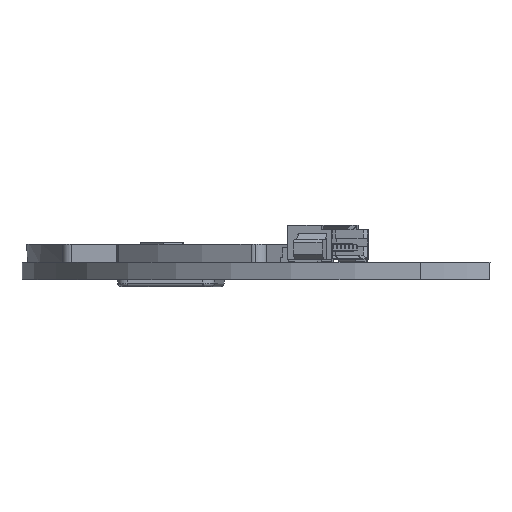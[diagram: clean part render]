
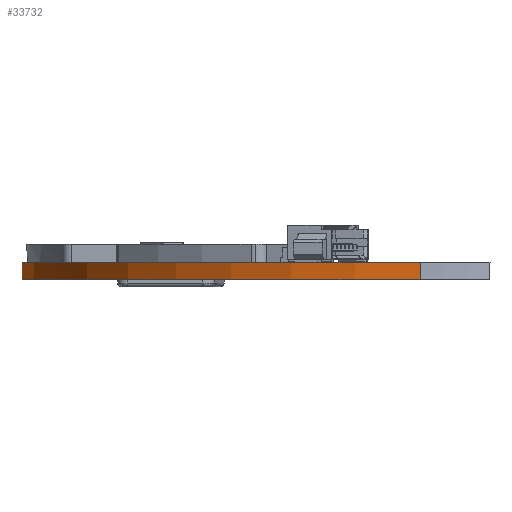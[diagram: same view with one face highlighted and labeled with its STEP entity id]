
A CAD part, left-side view. The second image highlights one B-rep face of the part: STEP entity #33732.
In plain terms, the highlighted cylindrical face has radius 37 mm (diameter 74 mm), a partial arc.
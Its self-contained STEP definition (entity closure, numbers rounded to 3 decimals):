
#306 = ORIENTED_EDGE ( 'NONE', *, *, #2765, .F. ) ;
#770 = CARTESIAN_POINT ( 'NONE',  ( 0., 0., -1.599 ) ) ;
#788 = FACE_OUTER_BOUND ( 'NONE', #26590, .T. ) ;
#2760 = CARTESIAN_POINT ( 'NONE',  ( -37., 0., 0. ) ) ;
#2765 = EDGE_CURVE ( 'NONE', #3721, #29935, #37634, .T. ) ;
#3721 = VERTEX_POINT ( 'NONE', #2760 ) ;
#6373 = CARTESIAN_POINT ( 'NONE',  ( -37., 0., -1.599 ) ) ;
#8593 = CARTESIAN_POINT ( 'NONE',  ( 2.724, 36.9, 0. ) ) ;
#8835 = DIRECTION ( 'NONE',  ( 0., 0., -1. ) ) ;
#9436 = ORIENTED_EDGE ( 'NONE', *, *, #36656, .T. ) ;
#9491 = DIRECTION ( 'NONE',  ( 0., 0., -1. ) ) ;
#9585 = DIRECTION ( 'NONE',  ( 0., 0., -1. ) ) ;
#9694 = CARTESIAN_POINT ( 'NONE',  ( -37., 0., -0.67 ) ) ;
#10772 = DIRECTION ( 'NONE',  ( 0., 0., -1. ) ) ;
#13521 = ORIENTED_EDGE ( 'NONE', *, *, #37237, .T. ) ;
#13857 = CARTESIAN_POINT ( 'NONE',  ( 0., 0., -0.67 ) ) ;
#14384 = CIRCLE ( 'NONE', #19652, 37. ) ;
#14956 = VECTOR ( 'NONE', #9585, 1000. ) ;
#16932 = CYLINDRICAL_SURFACE ( 'NONE', #38662, 37. ) ;
#16979 = VECTOR ( 'NONE', #9491, 1000. ) ;
#17404 = ORIENTED_EDGE ( 'NONE', *, *, #32462, .T. ) ;
#19652 = AXIS2_PLACEMENT_3D ( 'NONE', #770, #28836, #34378 ) ;
#21737 = LINE ( 'NONE', #31769, #14956 ) ;
#22563 = CARTESIAN_POINT ( 'NONE',  ( 2.724, 36.9, -1.599 ) ) ;
#26590 = EDGE_LOOP ( 'NONE', ( #306, #13521, #17404, #9436 ) ) ;
#27525 = DIRECTION ( 'NONE',  ( -1., 0., 0. ) ) ;
#28836 = DIRECTION ( 'NONE',  ( 0., 0., 1. ) ) ;
#29935 = VERTEX_POINT ( 'NONE', #6373 ) ;
#30191 = AXIS2_PLACEMENT_3D ( 'NONE', #30608, #8835, #27525 ) ;
#30608 = CARTESIAN_POINT ( 'NONE',  ( 0., 0., 0. ) ) ;
#31769 = CARTESIAN_POINT ( 'NONE',  ( 2.724, 36.9, -0.67 ) ) ;
#32462 = EDGE_CURVE ( 'NONE', #33188, #33453, #21737, .T. ) ;
#32792 = CIRCLE ( 'NONE', #30191, 37. ) ;
#33188 = VERTEX_POINT ( 'NONE', #8593 ) ;
#33453 = VERTEX_POINT ( 'NONE', #22563 ) ;
#33732 = ADVANCED_FACE ( 'NONE', ( #788 ), #16932, .T. ) ;
#34378 = DIRECTION ( 'NONE',  ( -1., 0., 0. ) ) ;
#35798 = DIRECTION ( 'NONE',  ( -1., 0., 0. ) ) ;
#36656 = EDGE_CURVE ( 'NONE', #33453, #29935, #14384, .T. ) ;
#37237 = EDGE_CURVE ( 'NONE', #3721, #33188, #32792, .T. ) ;
#37634 = LINE ( 'NONE', #9694, #16979 ) ;
#38662 = AXIS2_PLACEMENT_3D ( 'NONE', #13857, #10772, #35798 ) ;
